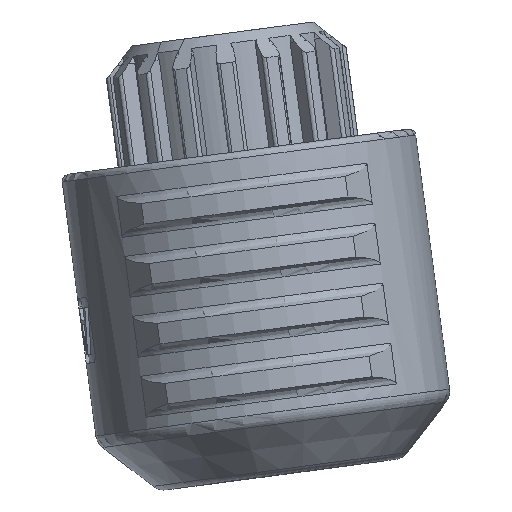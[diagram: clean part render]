
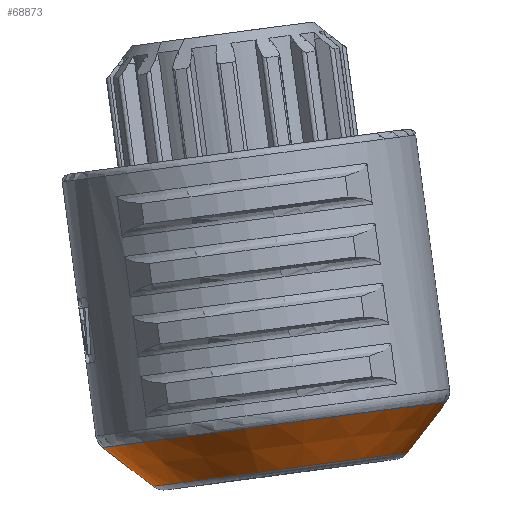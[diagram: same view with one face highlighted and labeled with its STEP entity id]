
A CAD part, top view. The second image highlights one B-rep face of the part: STEP entity #68873.
In plain terms, the highlighted conical face has half-angle 45 degrees and reference radius 8.725 mm.
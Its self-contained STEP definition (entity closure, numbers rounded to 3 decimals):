
#18751=CARTESIAN_POINT('',(1.016,-7.646,20.));
#18752=DIRECTION('',(-0.132,0.991,0.));
#18753=DIRECTION('',(-0.991,-0.132,0.));
#18754=AXIS2_PLACEMENT_3D('',#18751,#18752,#18753);
#18756=CARTESIAN_POINT('',(1.361,-10.237,20.));
#18757=DIRECTION('',(0.132,-0.991,0.));
#18758=DIRECTION('',(0.991,0.132,0.));
#18759=AXIS2_PLACEMENT_3D('',#18756,#18757,#18758);
#18761=DIRECTION('',(-0.794,0.608,0.));
#18762=VECTOR('',#18761,3.697);
#18763=CARTESIAN_POINT('',(-5.992,-11.215,
20.));
#18764=LINE('',#18763,#18762);
#18805=DIRECTION('',(0.608,0.794,0.));
#18806=VECTOR('',#18805,3.697);
#18807=CARTESIAN_POINT('',(8.714,-9.259,
20.));
#18808=LINE('',#18807,#18806);
#50080=CARTESIAN_POINT('',(-5.992,-11.215,
20.));
#50081=CARTESIAN_POINT('',(-8.928,-8.968,
20.));
#50082=VERTEX_POINT('',#50080);
#50083=VERTEX_POINT('',#50081);
#50084=CARTESIAN_POINT('',(8.714,-9.259,
20.));
#50085=CARTESIAN_POINT('',(10.961,-6.324,20.));
#50086=VERTEX_POINT('',#50084);
#50087=VERTEX_POINT('',#50085);
#68859=CARTESIAN_POINT('',(1.189,-8.941,20.));
#68860=DIRECTION('',(-0.132,0.991,0.));
#68861=DIRECTION('',(0.991,0.132,0.));
#68862=AXIS2_PLACEMENT_3D('',#68859,#68860,#68861);
#68863=CONICAL_SURFACE('',#68862,8.725,45.);
#68864=ORIENTED_EDGE('',*,*,#68843,.T.);
#68866=ORIENTED_EDGE('',*,*,#68865,.F.);
#68868=ORIENTED_EDGE('',*,*,#68867,.T.);
#68870=ORIENTED_EDGE('',*,*,#68869,.T.);
#68871=EDGE_LOOP('',(#68864,#68866,#68868,#68870));
#68872=FACE_OUTER_BOUND('',#68871,.F.);
#68873=ADVANCED_FACE('',(#68872),#68863,.T.);
#18755=CIRCLE('',#18754,10.032);
#18760=CIRCLE('',#18759,7.418);
#68843=EDGE_CURVE('',#50083,#50087,#18755,.T.);
#68865=EDGE_CURVE('',#50086,#50087,#18808,.T.);
#68867=EDGE_CURVE('',#50086,#50082,#18760,.T.);
#68869=EDGE_CURVE('',#50082,#50083,#18764,.T.);
